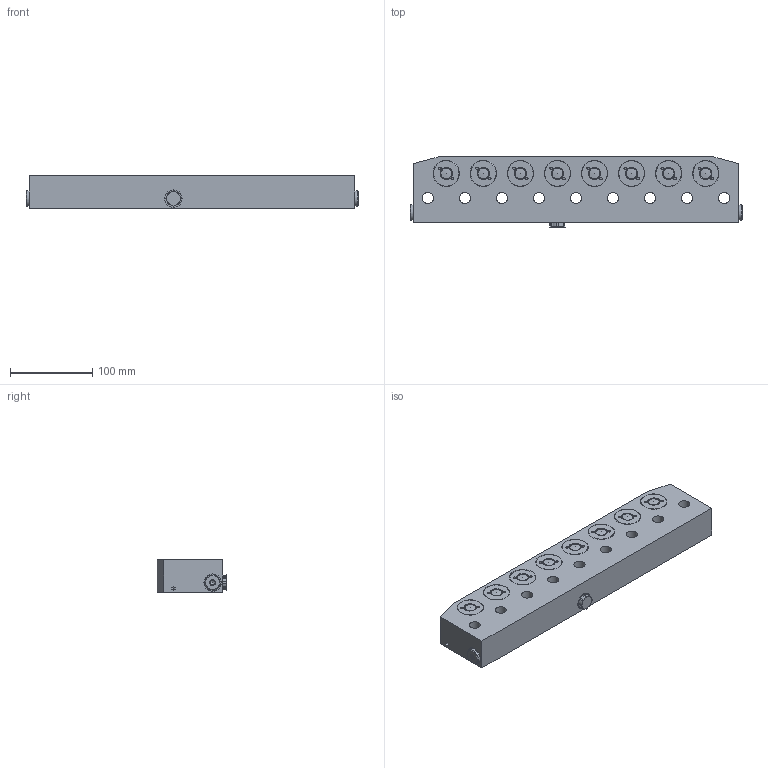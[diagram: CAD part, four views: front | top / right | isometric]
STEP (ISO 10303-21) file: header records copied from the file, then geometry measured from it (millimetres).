
FILE_DESCRIPTION((''),'2;1');
FILE_NAME('Z:\Standard Products\2. QDC Clamping Systems\9. MLC - Ledge Clamp\MLC1208-DQ1236-900.stp','2014-02-14T07:49:41',('breep'),(''),'Autodesk Inventor 2013','Autodesk Inventor 2013','');
FILE_SCHEMA(('AUTOMOTIVE_DESIGN { 1 0 10303 214 1 1 1 1 }'));
Length unit declared in the file: millimetre
Products named in the file (1): Part3
Bounding box: 403.2 x 85 x 40 mm (x, y, z)
Volume: 1121630.8 mm3; surface area: 203942.1 mm2
Topology: 9 solids, 13 shells, 657 faces, 1444 edges, 887 vertices
Faces by surface type: plane 244, cylinder 217, torus 104, cone 76, bspline 16
Full cylindrical faces by diameter (mm): 3 x16, 5 x4, 6 x2, 6.561 x2, 9 x1, 10.8 x1, 11.2 x2, 11.445 x5, 11.6 x2, 13.5 x9, 13.95 x8, 14.1 x8, 16.4 x2, 16.8 x2, 17 x16, 18.8 x2, 19.5 x8, 20 x9, 20.663 x16, 21 x3, 23.5 x8, 23.97 x16, 24 x8, 24.02 x8, 32 x16, 33 x8
Entity records: 20040 total; most frequent: CARTESIAN_POINT 6647, DIRECTION 2854, ORIENTED_EDGE 1914, AXIS2_PLACEMENT_3D 1330, EDGE_LOOP 1196, EDGE_CURVE 957, VERTEX_POINT 777, CIRCLE 682
